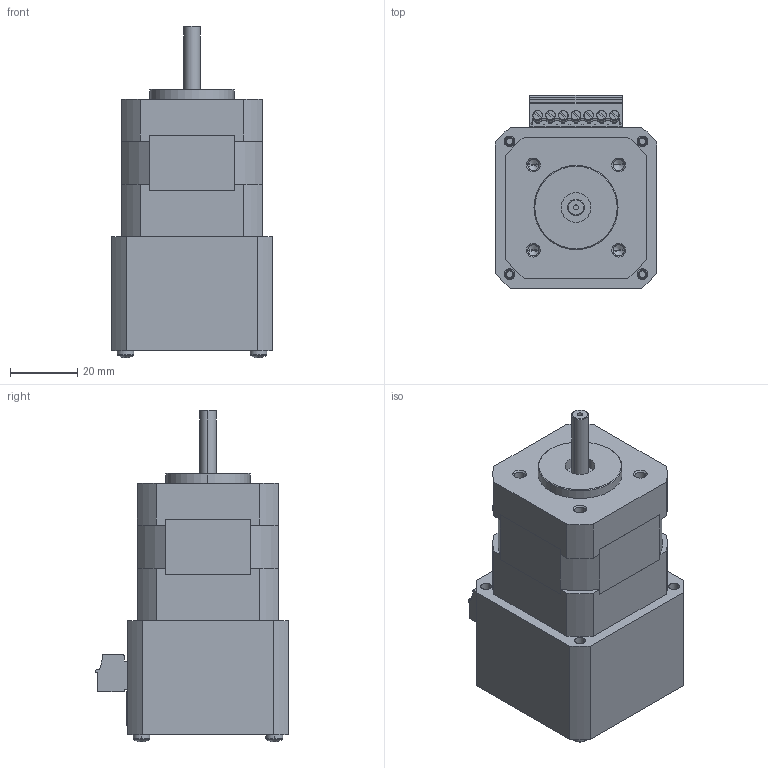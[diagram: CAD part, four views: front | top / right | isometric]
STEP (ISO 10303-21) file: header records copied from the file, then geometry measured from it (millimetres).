
FILE_DESCRIPTION (( 'STEP AP214' ), '1' );
FILE_NAME ('BLY17MD1S.STEP', '2010-06-08T22:18:43', ( 'Tim Raines' ), ( 'Anaheim Automation' ), 'SwSTEP 2.0', 'SolidWorks 2010', '' );
FILE_SCHEMA (( 'AUTOMOTIVE_DESIGN' ));
Length unit declared in the file: inch
Products named in the file (7): 1803620; 1803471; Pan Cross Head_AM_B18.6.7M - M2.5 x 0.45 x 25 Type I Cross Recessed PHMS --25S; Label for BLY17MD Series; BLY17MD1S; BLY17MD Series driver_BLY17MD1; BLY17MD Series motor_BLY17MD1
Assembly tree (9 placements, depth 2):
  BLY17MD1S
    Pan Cross Head_AM_B18.6.7M - M2.5 x 0.45 x 25 Type I Cross Recessed PHMS --25S  x4
    BLY17MD Series driver_BLY17MD1
    1803471
    BLY17MD Series motor_BLY17MD1
    Label for BLY17MD Series
    1803620
Bounding box: 48.01 x 57.51 x 98.92 mm (x, y, z)
Volume: 149494.9 mm3; surface area: 31007.9 mm2
Topology: 9 solids, 9 shells, 2824 faces, 7369 edges, 4700 vertices
Faces by surface type: plane 988, cone 931, cylinder 760, bspline 129, torus 8, sphere 8
Entity records: 77006 total; most frequent: CARTESIAN_POINT 15902, ORIENTED_EDGE 9064, DIRECTION 8694, EDGE_CURVE 4532, VERTEX_POINT 2948, VECTOR 2900, LINE 2900, AXIS2_PLACEMENT_3D 2897
